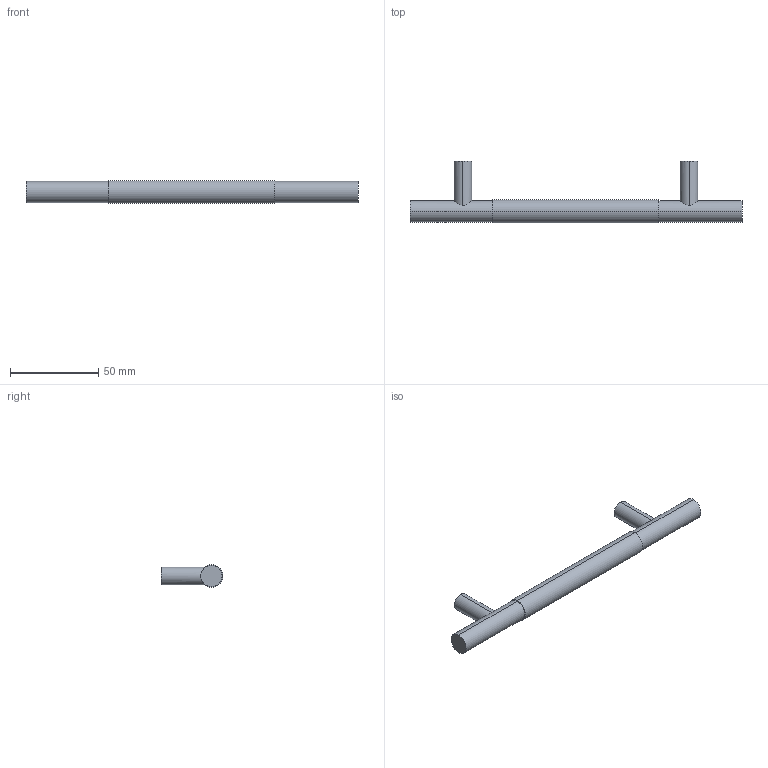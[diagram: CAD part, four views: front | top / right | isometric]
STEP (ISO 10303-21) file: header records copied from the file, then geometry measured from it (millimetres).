
FILE_DESCRIPTION( ( '' ), '1' );
FILE_NAME( 'C:/Documents and Settings/Sachin/Desktop/Sheet 10_1/stp/9070146.stp', '2013-10-22T09:21:32', ( '' ), ( '' ), ' ', ' ', ' ' );
FILE_SCHEMA( ( 'CONFIG_CONTROL_DESIGN' ) );
Length unit declared in the file: millimetre
Products named in the file (1): 1
Bounding box: 188 x 35 x 13 mm (x, y, z)
Volume: 26507.3 mm3; surface area: 9346.8 mm2
Topology: 1 solids, 1 shells, 22 faces, 42 edges, 28 vertices
Faces by surface type: cylinder 14, plane 8
Entity records: 738 total; most frequent: CARTESIAN_POINT 225, DIRECTION 108, ORIENTED_EDGE 84, AXIS2_PLACEMENT_3D 47, EDGE_CURVE 42, EDGE_LOOP 28, VERTEX_POINT 28, CIRCLE 24
